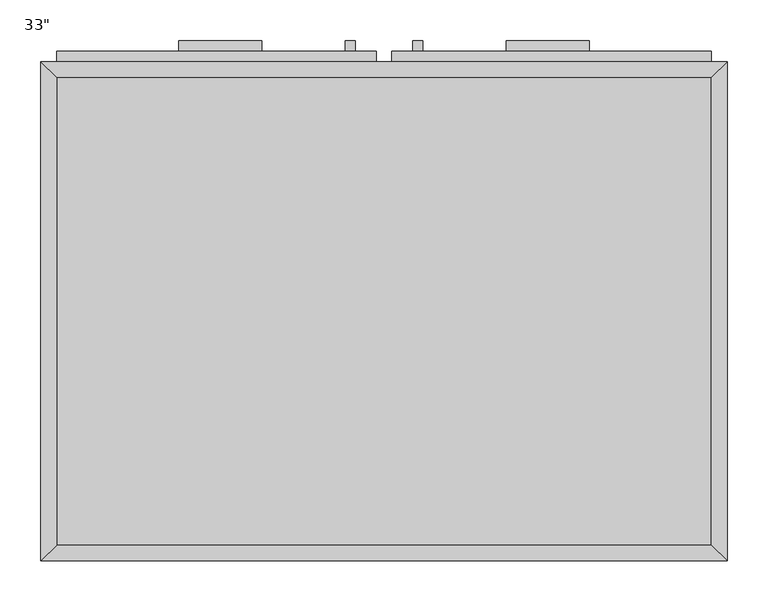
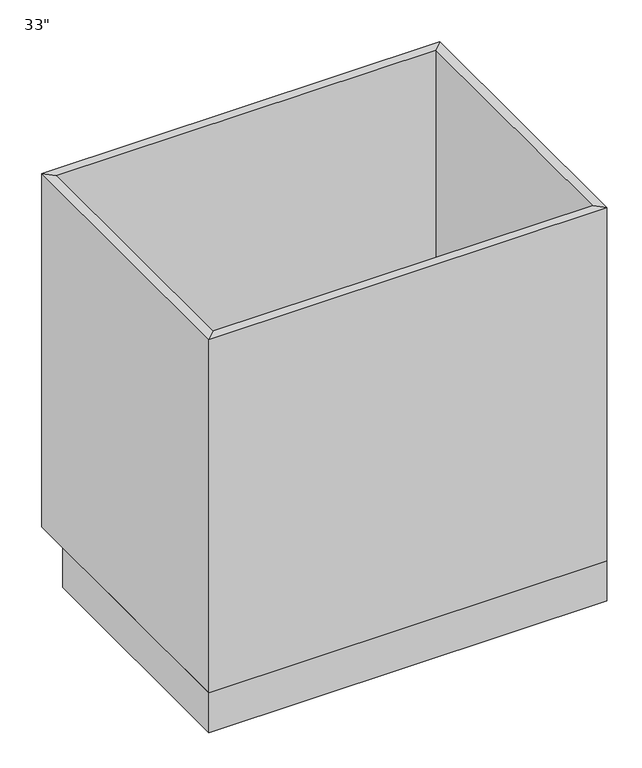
"""IFC4 building model written with IfcOpenShell, lengths in millimetres: furniture geometry."""

from ifc_helpers import new_model, si_unit, frame, origin, origin_with_axes, place, context, project, spatial, polyline, outline, extrude, faceted_brep, source, transform, mapped, element, save


def furniture_16018ffc(model_context):
    return source(origin(), model_context, "Body", "SolidModel", [
        extrude(outline(polyline([(-130.4872951, 635.0), (-130.4872951, 622.3), (-232.0872951, 622.3), (-232.0872951, 635.0), (-130.4872951, 635.0)])), frame((0.0, 0.0, 819.15), z_axis=(0.0, 0.0, 1.0), x_axis=(1.0, 0.0, 0.0)), (0.0, 0.0, 1.0), 12.7),
        extrude(outline(polyline([(269.5627049, 635.0), (269.5627049, 622.3), (167.9627049, 622.3), (167.9627049, 635.0), (269.5627049, 635.0)])), frame((0.0, 0.0, 819.15), z_axis=(0.0, 0.0, 1.0), x_axis=(1.0, 0.0, 0.0)), (0.0, 0.0, 1.0), 12.7),
        extrude(outline(polyline([(-16.1872951, 635.0), (-16.1872951, 622.3), (-28.8872951, 622.3), (-28.8872951, 635.0), (-16.1872951, 635.0)])), frame((0.0, 0.0, 596.9), z_axis=(0.0, 0.0, 1.0), x_axis=(1.0, 0.0, 0.0)), (0.0, 0.0, 1.0), 101.6),
        extrude(outline(polyline([(66.3627049, 635.0), (66.3627049, 622.3), (53.6627049, 622.3), (53.6627049, 635.0), (66.3627049, 635.0)])), frame((0.0, 0.0, 596.9), z_axis=(0.0, 0.0, 1.0), x_axis=(1.0, 0.0, 0.0)), (0.0, 0.0, 1.0), 101.6),
        extrude(outline(polyline([(418.7877049, 19.05), (-381.3122951, 19.05), (-381.3122951, 590.55), (418.7877049, 590.55), (418.7877049, 19.05)])), frame((0.0, 0.0, 88.9), z_axis=(0.0, 0.0, 1.0), x_axis=(1.0, 0.0, 0.0)), (0.0, 0.0, 1.0), 19.05),
        faceted_brep([(418.7877049, 590.55, 876.3), (-381.3122951, 590.55, 876.3), (-381.3122951, 590.55, 88.9), (418.7877049, 590.55, 88.9), (437.8377049, 609.6, 876.3), (-400.3622951, 609.6, 876.3), (437.8377049, 609.6, 88.9), (-400.3622951, 609.6, 88.9), (-381.3122951, 19.05, 876.3), (-381.3122951, 19.05, 88.9), (-400.3622951, 0.0, 876.3), (-400.3622951, 0.0, 88.9), (418.7877049, 19.05, 876.3), (418.7877049, 19.05, 88.9), (437.8377049, 0.0, 876.3), (437.8377049, 0.0, 88.9)], [[[0, 1, 2, 3]], [[4, 5, 1, 0]], [[6, 7, 5, 4]], [[3, 2, 7, 6]], [[1, 8, 9, 2]], [[5, 10, 8, 1]], [[7, 11, 10, 5]], [[2, 9, 11, 7]], [[8, 12, 13, 9]], [[10, 14, 12, 8]], [[11, 15, 14, 10]], [[9, 13, 15, 11]], [[12, 0, 3, 13]], [[14, 4, 0, 12]], [[15, 6, 4, 14]], [[13, 3, 6, 15]]]),
        extrude(outline(polyline([(437.8377049, 0.0), (-400.3622951, 0.0), (-400.3622951, 533.4), (437.8377049, 533.4), (437.8377049, 0.0)])), origin_with_axes(), (0.0, 0.0, 1.0), 88.9),
        extrude(outline(polyline([(9.2127049, 622.3), (9.2127049, 609.6), (-381.3122951, 609.6), (-381.3122951, 622.3), (9.2127049, 622.3)])), frame((0.0, 0.0, 755.65), z_axis=(0.0, 0.0, 1.0), x_axis=(1.0, 0.0, 0.0)), (0.0, 0.0, 1.0), 101.6),
        extrude(outline(polyline([(418.7877049, 622.3), (418.7877049, 609.6), (28.2627049, 609.6), (28.2627049, 622.3), (418.7877049, 622.3)])), frame((0.0, 0.0, 755.65), z_axis=(0.0, 0.0, 1.0), x_axis=(1.0, 0.0, 0.0)), (0.0, 0.0, 1.0), 101.6),
        extrude(outline(polyline([(9.2127049, 622.3), (9.2127049, 609.6), (-381.3122951, 609.6), (-381.3122951, 622.3), (9.2127049, 622.3)])), frame((0.0, 0.0, 107.95), z_axis=(0.0, 0.0, 1.0), x_axis=(1.0, 0.0, 0.0)), (0.0, 0.0, 1.0), 628.65),
        extrude(outline(polyline([(418.7877049, 622.3), (418.7877049, 609.6), (28.2627049, 609.6), (28.2627049, 622.3), (418.7877049, 622.3)])), frame((0.0, 0.0, 107.95), z_axis=(0.0, 0.0, 1.0), x_axis=(1.0, 0.0, 0.0)), (0.0, 0.0, 1.0), 628.65),
    ])


if __name__ == "__main__":
    model = new_model("IFC4")
    model_context = context("Model", 3, world=origin())
    ifc_project = project(units=[si_unit("LENGTHUNIT", "METRE", prefix="MILLI")], contexts=[model_context])
    site = spatial("IfcSite", under=ifc_project)
    building = spatial("IfcBuilding", under=site)
    placement = place(None, origin())
    furniture_shape = furniture_16018ffc(model_context)
    element("IfcFurniture", 1, ObjectType="Base Cabinet-Double Door & 2 Drawer : 33\"", at=placement, inside=building, context=model_context, shape_type="MappedRepresentation", body=[
        mapped(furniture_shape, transform((0.0, 0.0, 0.0), x_axis=(1.0, 0.0, 0.0), y_axis=(0.0, 1.0, 0.0), z_axis=(0.0, 0.0, 1.0))),
    ])
    save(model, "model.ifc")
